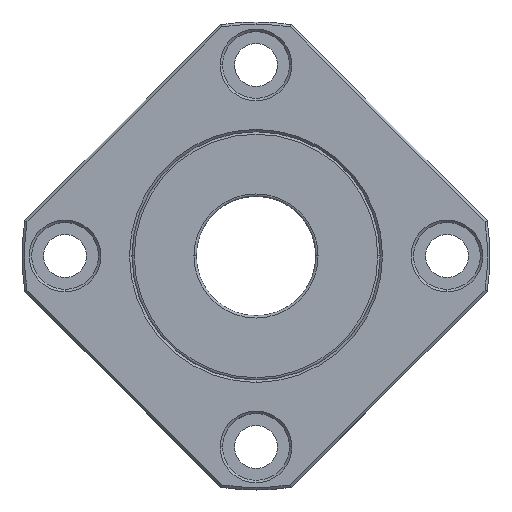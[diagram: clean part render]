
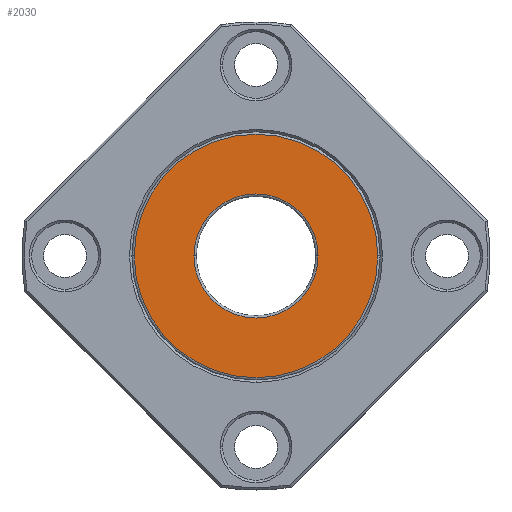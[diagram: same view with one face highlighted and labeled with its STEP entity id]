
A CAD part, top view. The second image highlights one B-rep face of the part: STEP entity #2030.
In plain terms, the highlighted planar face has unit normal (0, 0, 1).
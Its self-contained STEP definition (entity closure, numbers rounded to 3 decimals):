
#54 = CARTESIAN_POINT ( 'NONE',  ( -25.5, 0., 7.5 ) ) ;
#68 = CARTESIAN_POINT ( 'NONE',  ( 25.5, 0., 7.5 ) ) ;
#113 = CARTESIAN_POINT ( 'NONE',  ( -13., 0., 7.5 ) ) ;
#115 = CARTESIAN_POINT ( 'NONE',  ( 13., 0., 7.5 ) ) ;
#260 = CARTESIAN_POINT ( 'NONE',  ( 0., 0., 7.5 ) ) ;
#261 = DIRECTION ( 'NONE',  ( 0., 0., -1. ) ) ;
#262 = DIRECTION ( 'NONE',  ( 1., 0., 0. ) ) ;
#263 = CARTESIAN_POINT ( 'NONE',  ( 0., 0., 7.5 ) ) ;
#264 = DIRECTION ( 'NONE',  ( 0., 0., 1. ) ) ;
#265 = DIRECTION ( 'NONE',  ( 1., 0., 0. ) ) ;
#474 = CARTESIAN_POINT ( 'NONE',  ( 0., 0., 7.5 ) ) ;
#478 = DIRECTION ( 'NONE',  ( 0., 0., 1. ) ) ;
#479 = DIRECTION ( 'NONE',  ( 1., 0., 0. ) ) ;
#623 = AXIS2_PLACEMENT_3D ( 'NONE', #1413, #1414, #1415 ) ;
#649 = FACE_BOUND ( 'NONE', #852, .T. ) ;
#654 = FACE_OUTER_BOUND ( 'NONE', #955, .T. ) ;
#656 = AXIS2_PLACEMENT_3D ( 'NONE', #1466, #1467, #1468 ) ;
#848 = VERTEX_POINT ( 'NONE', #54 ) ;
#852 = EDGE_LOOP ( 'NONE', ( #1742, #1743 ) ) ;
#883 = VERTEX_POINT ( 'NONE', #68 ) ;
#950 = VERTEX_POINT ( 'NONE', #113 ) ;
#952 = VERTEX_POINT ( 'NONE', #115 ) ;
#955 = EDGE_LOOP ( 'NONE', ( #1746, #1744 ) ) ;
#1413 = CARTESIAN_POINT ( 'NONE',  ( 0., 0., 7.5 ) ) ;
#1414 = DIRECTION ( 'NONE',  ( 0., 0., -1. ) ) ;
#1415 = DIRECTION ( 'NONE',  ( 1., 0., 0. ) ) ;
#1465 = PLANE ( 'NONE',  #656 ) ;
#1466 = CARTESIAN_POINT ( 'NONE',  ( 0., 0., 7.5 ) ) ;
#1467 = DIRECTION ( 'NONE',  ( 0., 0., 1. ) ) ;
#1468 = DIRECTION ( 'NONE',  ( 1., 0., 0. ) ) ;
#1742 = ORIENTED_EDGE ( 'NONE', *, *, #1774, .T. ) ;
#1743 = ORIENTED_EDGE ( 'NONE', *, *, #2013, .T. ) ;
#1744 = ORIENTED_EDGE ( 'NONE', *, *, #1775, .T. ) ;
#1746 = ORIENTED_EDGE ( 'NONE', *, *, #1893, .T. ) ;
#1774 = EDGE_CURVE ( 'NONE', #952, #950, #1789, .T. ) ;
#1775 = EDGE_CURVE ( 'NONE', #848, #883, #1790, .T. ) ;
#1789 = CIRCLE ( 'NONE', #2228, 13. ) ;
#1790 = CIRCLE ( 'NONE', #2217, 25.5 ) ;
#1814 = CIRCLE ( 'NONE', #2385, 25.5 ) ;
#1893 = EDGE_CURVE ( 'NONE', #883, #848, #1814, .T. ) ;
#2013 = EDGE_CURVE ( 'NONE', #950, #952, #2121, .T. ) ;
#2030 = ADVANCED_FACE ( 'NONE', ( #649, #654 ), #1465, .T. ) ;
#2121 = CIRCLE ( 'NONE', #623, 13. ) ;
#2217 = AXIS2_PLACEMENT_3D ( 'NONE', #263, #264, #265 ) ;
#2228 = AXIS2_PLACEMENT_3D ( 'NONE', #260, #261, #262 ) ;
#2385 = AXIS2_PLACEMENT_3D ( 'NONE', #474, #478, #479 ) ;
